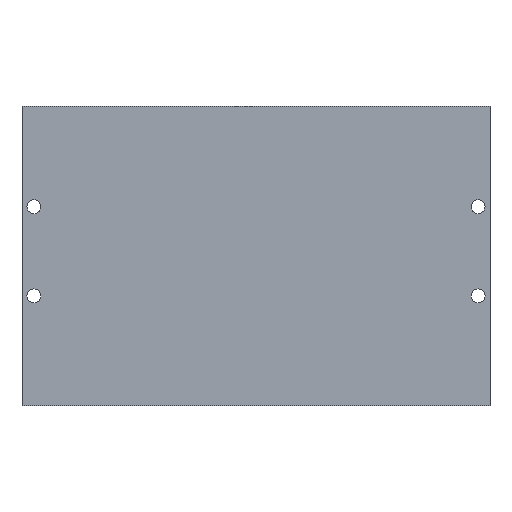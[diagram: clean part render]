
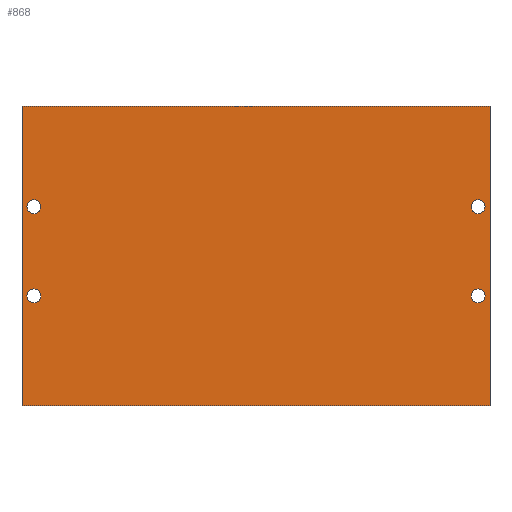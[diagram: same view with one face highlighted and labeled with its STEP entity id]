
A CAD part, front view. The second image highlights one B-rep face of the part: STEP entity #868.
In plain terms, the highlighted planar face has unit normal (0, -1, 0).
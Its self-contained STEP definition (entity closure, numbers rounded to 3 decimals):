
#2 = DIRECTION ( 'NONE',  ( 0., 0., 1. ) ) ;
#11 = CARTESIAN_POINT ( 'NONE',  ( 118., 0., -75.5 ) ) ;
#14 = ORIENTED_EDGE ( 'NONE', *, *, #405, .T. ) ;
#42 = LINE ( 'NONE', #542, #812 ) ;
#43 = EDGE_LOOP ( 'NONE', ( #655, #762, #848, #439 ) ) ;
#44 = CARTESIAN_POINT ( 'NONE',  ( 0., 0., -75.5 ) ) ;
#51 = CARTESIAN_POINT ( 'NONE',  ( 0., 0., 0. ) ) ;
#55 = DIRECTION ( 'NONE',  ( 0., 0., 1. ) ) ;
#70 = DIRECTION ( 'NONE',  ( 0., 1., 0. ) ) ;
#71 = LINE ( 'NONE', #319, #274 ) ;
#87 = DIRECTION ( 'NONE',  ( 0., 1., 0. ) ) ;
#93 = EDGE_CURVE ( 'NONE', #583, #716, #42, .T. ) ;
#98 = FACE_BOUND ( 'NONE', #436, .T. ) ;
#107 = AXIS2_PLACEMENT_3D ( 'NONE', #534, #70, #612 ) ;
#109 = VERTEX_POINT ( 'NONE', #750 ) ;
#114 = VECTOR ( 'NONE', #594, 1000. ) ;
#146 = EDGE_CURVE ( 'NONE', #716, #616, #731, .T. ) ;
#160 = EDGE_CURVE ( 'NONE', #109, #943, #320, .T. ) ;
#167 = DIRECTION ( 'NONE',  ( 0., 0., -1. ) ) ;
#170 = CARTESIAN_POINT ( 'NONE',  ( 3., 0., -49.55 ) ) ;
#194 = EDGE_CURVE ( 'NONE', #749, #903, #683, .T. ) ;
#201 = DIRECTION ( 'NONE',  ( -1., 0., 0. ) ) ;
#225 = CARTESIAN_POINT ( 'NONE',  ( 115., 0., -47.8 ) ) ;
#274 = VECTOR ( 'NONE', #481, 1000. ) ;
#288 = EDGE_CURVE ( 'NONE', #903, #749, #353, .T. ) ;
#294 = CARTESIAN_POINT ( 'NONE',  ( 3., 0., -47.8 ) ) ;
#296 = EDGE_CURVE ( 'NONE', #943, #109, #957, .T. ) ;
#301 = FACE_BOUND ( 'NONE', #771, .T. ) ;
#303 = VERTEX_POINT ( 'NONE', #466 ) ;
#305 = DIRECTION ( 'NONE',  ( 0., 0., 1. ) ) ;
#319 = CARTESIAN_POINT ( 'NONE',  ( 0., 0., 0. ) ) ;
#320 = CIRCLE ( 'NONE', #495, 1.75 ) ;
#321 = CARTESIAN_POINT ( 'NONE',  ( 115., 0., -23.55 ) ) ;
#340 = VERTEX_POINT ( 'NONE', #617 ) ;
#352 = CARTESIAN_POINT ( 'NONE',  ( 115., 0., -25.3 ) ) ;
#353 = CIRCLE ( 'NONE', #107, 1.75 ) ;
#361 = VERTEX_POINT ( 'NONE', #842 ) ;
#363 = AXIS2_PLACEMENT_3D ( 'NONE', #553, #87, #628 ) ;
#369 = CIRCLE ( 'NONE', #711, 1.75 ) ;
#373 = DIRECTION ( 'NONE',  ( 0., 0., 1. ) ) ;
#390 = EDGE_CURVE ( 'NONE', #340, #303, #669, .T. ) ;
#392 = ORIENTED_EDGE ( 'NONE', *, *, #632, .T. ) ;
#395 = CARTESIAN_POINT ( 'NONE',  ( 3., 0., -25.3 ) ) ;
#400 = CARTESIAN_POINT ( 'NONE',  ( 118., 0., 0. ) ) ;
#405 = EDGE_CURVE ( 'NONE', #361, #546, #698, .T. ) ;
#430 = DIRECTION ( 'NONE',  ( 0., 0., 1. ) ) ;
#436 = EDGE_LOOP ( 'NONE', ( #14, #392 ) ) ;
#439 = ORIENTED_EDGE ( 'NONE', *, *, #929, .F. ) ;
#451 = EDGE_LOOP ( 'NONE', ( #549, #657 ) ) ;
#466 = CARTESIAN_POINT ( 'NONE',  ( 3., 0., -23.55 ) ) ;
#477 = DIRECTION ( 'NONE',  ( 0., 0., 1. ) ) ;
#480 = DIRECTION ( 'NONE',  ( 0., 1., 0. ) ) ;
#481 = DIRECTION ( 'NONE',  ( 1., 0., 0. ) ) ;
#489 = CARTESIAN_POINT ( 'NONE',  ( 0., 0., 0. ) ) ;
#490 = CIRCLE ( 'NONE', #585, 1.75 ) ;
#495 = AXIS2_PLACEMENT_3D ( 'NONE', #966, #521, #55 ) ;
#519 = AXIS2_PLACEMENT_3D ( 'NONE', #925, #480, #2 ) ;
#520 = ORIENTED_EDGE ( 'NONE', *, *, #390, .T. ) ;
#521 = DIRECTION ( 'NONE',  ( 0., 1., 0. ) ) ;
#534 = CARTESIAN_POINT ( 'NONE',  ( 3., 0., -47.8 ) ) ;
#542 = CARTESIAN_POINT ( 'NONE',  ( 0., 0., -75.5 ) ) ;
#546 = VERTEX_POINT ( 'NONE', #321 ) ;
#547 = VERTEX_POINT ( 'NONE', #400 ) ;
#549 = ORIENTED_EDGE ( 'NONE', *, *, #288, .T. ) ;
#553 = CARTESIAN_POINT ( 'NONE',  ( 3., 0., -25.3 ) ) ;
#558 = CARTESIAN_POINT ( 'NONE',  ( 115., 0., -46.05 ) ) ;
#583 = VERTEX_POINT ( 'NONE', #11 ) ;
#585 = AXIS2_PLACEMENT_3D ( 'NONE', #395, #923, #477 ) ;
#594 = DIRECTION ( 'NONE',  ( 0., 0., 1. ) ) ;
#612 = DIRECTION ( 'NONE',  ( 0., 0., 1. ) ) ;
#616 = VERTEX_POINT ( 'NONE', #489 ) ;
#617 = CARTESIAN_POINT ( 'NONE',  ( 3., 0., -27.05 ) ) ;
#623 = FACE_BOUND ( 'NONE', #769, .T. ) ;
#626 = CARTESIAN_POINT ( 'NONE',  ( 0., 0., 0. ) ) ;
#628 = DIRECTION ( 'NONE',  ( 0., 0., 1. ) ) ;
#632 = EDGE_CURVE ( 'NONE', #546, #361, #369, .T. ) ;
#640 = AXIS2_PLACEMENT_3D ( 'NONE', #626, #773, #167 ) ;
#655 = ORIENTED_EDGE ( 'NONE', *, *, #146, .F. ) ;
#657 = ORIENTED_EDGE ( 'NONE', *, *, #194, .T. ) ;
#669 = CIRCLE ( 'NONE', #363, 1.75 ) ;
#672 = CARTESIAN_POINT ( 'NONE',  ( 3., 0., -46.05 ) ) ;
#683 = CIRCLE ( 'NONE', #793, 1.75 ) ;
#698 = CIRCLE ( 'NONE', #519, 1.75 ) ;
#702 = PLANE ( 'NONE',  #640 ) ;
#711 = AXIS2_PLACEMENT_3D ( 'NONE', #352, #875, #430 ) ;
#715 = CARTESIAN_POINT ( 'NONE',  ( 118., 0., 0. ) ) ;
#716 = VERTEX_POINT ( 'NONE', #44 ) ;
#731 = LINE ( 'NONE', #51, #114 ) ;
#749 = VERTEX_POINT ( 'NONE', #672 ) ;
#750 = CARTESIAN_POINT ( 'NONE',  ( 115., 0., -49.55 ) ) ;
#762 = ORIENTED_EDGE ( 'NONE', *, *, #93, .F. ) ;
#766 = DIRECTION ( 'NONE',  ( 0., 1., 0. ) ) ;
#769 = EDGE_LOOP ( 'NONE', ( #803, #952 ) ) ;
#771 = EDGE_LOOP ( 'NONE', ( #520, #794 ) ) ;
#773 = DIRECTION ( 'NONE',  ( 0., -1., 0. ) ) ;
#786 = DIRECTION ( 'NONE',  ( 0., 0., -1. ) ) ;
#793 = AXIS2_PLACEMENT_3D ( 'NONE', #294, #823, #373 ) ;
#794 = ORIENTED_EDGE ( 'NONE', *, *, #869, .T. ) ;
#803 = ORIENTED_EDGE ( 'NONE', *, *, #160, .T. ) ;
#811 = LINE ( 'NONE', #715, #987 ) ;
#812 = VECTOR ( 'NONE', #201, 1000. ) ;
#818 = FACE_BOUND ( 'NONE', #451, .T. ) ;
#823 = DIRECTION ( 'NONE',  ( 0., 1., 0. ) ) ;
#826 = FACE_OUTER_BOUND ( 'NONE', #43, .T. ) ;
#842 = CARTESIAN_POINT ( 'NONE',  ( 115., 0., -27.05 ) ) ;
#848 = ORIENTED_EDGE ( 'NONE', *, *, #976, .F. ) ;
#868 = ADVANCED_FACE ( 'NONE', ( #623, #818, #826, #301, #98 ), #702, .T. ) ;
#869 = EDGE_CURVE ( 'NONE', #303, #340, #490, .T. ) ;
#875 = DIRECTION ( 'NONE',  ( 0., 1., 0. ) ) ;
#903 = VERTEX_POINT ( 'NONE', #170 ) ;
#923 = DIRECTION ( 'NONE',  ( 0., 1., 0. ) ) ;
#925 = CARTESIAN_POINT ( 'NONE',  ( 115., 0., -25.3 ) ) ;
#929 = EDGE_CURVE ( 'NONE', #616, #547, #71, .T. ) ;
#943 = VERTEX_POINT ( 'NONE', #558 ) ;
#952 = ORIENTED_EDGE ( 'NONE', *, *, #296, .T. ) ;
#957 = CIRCLE ( 'NONE', #990, 1.75 ) ;
#966 = CARTESIAN_POINT ( 'NONE',  ( 115., 0., -47.8 ) ) ;
#976 = EDGE_CURVE ( 'NONE', #547, #583, #811, .T. ) ;
#987 = VECTOR ( 'NONE', #786, 1000. ) ;
#990 = AXIS2_PLACEMENT_3D ( 'NONE', #225, #766, #305 ) ;
